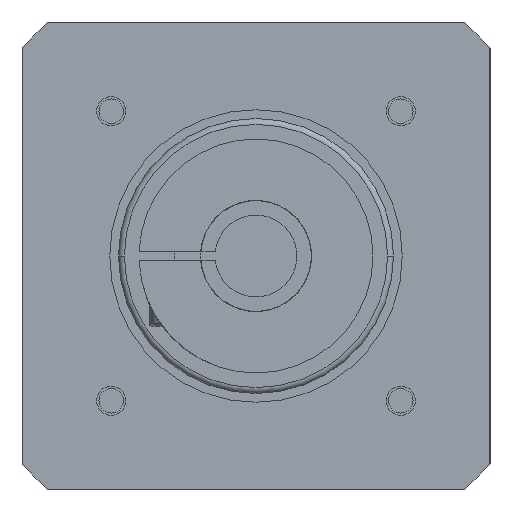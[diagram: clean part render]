
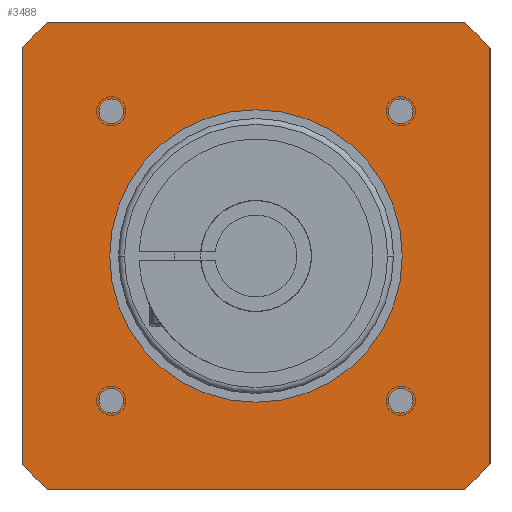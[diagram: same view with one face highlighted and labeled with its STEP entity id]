
A CAD part, left-side view. The second image highlights one B-rep face of the part: STEP entity #3488.
In plain terms, the highlighted planar face has unit normal (-1, 0, 0).
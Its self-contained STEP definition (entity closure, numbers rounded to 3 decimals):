
#735=CARTESIAN_POINT('',(0.,0.,0.));
#736=DIRECTION('',(-1.,0.,0.));
#737=DIRECTION('',(0.,-0.748,0.664));
#738=AXIS2_PLACEMENT_3D('',#735,#736,#737);
#740=DIRECTION('',(0.,0.,1.));
#741=VECTOR('',#740,71.056);
#742=CARTESIAN_POINT('',(0.,-40.,-35.528));
#743=LINE('',#742,#741);
#744=CARTESIAN_POINT('',(0.,0.,0.));
#745=DIRECTION('',(-1.,0.,0.));
#746=DIRECTION('',(0.,-0.664,-0.748));
#747=AXIS2_PLACEMENT_3D('',#744,#745,#746);
#749=DIRECTION('',(0.,-1.,0.));
#750=VECTOR('',#749,71.056);
#751=CARTESIAN_POINT('',(0.,35.528,-40.));
#752=LINE('',#751,#750);
#753=CARTESIAN_POINT('',(0.,0.,0.));
#754=DIRECTION('',(-1.,0.,0.));
#755=DIRECTION('',(0.,0.748,-0.664));
#756=AXIS2_PLACEMENT_3D('',#753,#754,#755);
#758=DIRECTION('',(0.,0.,-1.));
#759=VECTOR('',#758,71.056);
#760=CARTESIAN_POINT('',(0.,40.,35.528));
#761=LINE('',#760,#759);
#762=CARTESIAN_POINT('',(0.,0.,0.));
#763=DIRECTION('',(-1.,0.,0.));
#764=DIRECTION('',(0.,0.664,0.748));
#765=AXIS2_PLACEMENT_3D('',#762,#763,#764);
#767=DIRECTION('',(0.,1.,0.));
#768=VECTOR('',#767,71.056);
#769=CARTESIAN_POINT('',(0.,-35.528,40.));
#770=LINE('',#769,#768);
#771=CARTESIAN_POINT('',(0.,0.,0.));
#772=DIRECTION('',(1.,0.,0.));
#773=DIRECTION('',(0.,-1.,0.));
#774=AXIS2_PLACEMENT_3D('',#771,#772,#773);
#776=CARTESIAN_POINT('',(0.,0.,0.));
#777=DIRECTION('',(1.,0.,0.));
#778=DIRECTION('',(0.,1.,0.));
#779=AXIS2_PLACEMENT_3D('',#776,#777,#778);
#781=CARTESIAN_POINT('',(0.,-24.749,24.749));
#782=DIRECTION('',(-1.,0.,0.));
#783=DIRECTION('',(0.,0.,-1.));
#784=AXIS2_PLACEMENT_3D('',#781,#782,#783);
#786=CARTESIAN_POINT('',(0.,-24.749,24.749));
#787=DIRECTION('',(-1.,0.,0.));
#788=DIRECTION('',(0.,0.,1.));
#789=AXIS2_PLACEMENT_3D('',#786,#787,#788);
#791=CARTESIAN_POINT('',(0.,-24.749,-24.749));
#792=DIRECTION('',(-1.,0.,0.));
#793=DIRECTION('',(0.,0.,-1.));
#794=AXIS2_PLACEMENT_3D('',#791,#792,#793);
#796=CARTESIAN_POINT('',(0.,-24.749,-24.749));
#797=DIRECTION('',(-1.,0.,0.));
#798=DIRECTION('',(0.,0.,1.));
#799=AXIS2_PLACEMENT_3D('',#796,#797,#798);
#801=CARTESIAN_POINT('',(0.,24.749,-24.749));
#802=DIRECTION('',(-1.,0.,0.));
#803=DIRECTION('',(0.,0.,-1.));
#804=AXIS2_PLACEMENT_3D('',#801,#802,#803);
#806=CARTESIAN_POINT('',(0.,24.749,-24.749));
#807=DIRECTION('',(-1.,0.,0.));
#808=DIRECTION('',(0.,0.,1.));
#809=AXIS2_PLACEMENT_3D('',#806,#807,#808);
#811=CARTESIAN_POINT('',(0.,24.749,24.749));
#812=DIRECTION('',(-1.,0.,0.));
#813=DIRECTION('',(0.,0.,-1.));
#814=AXIS2_PLACEMENT_3D('',#811,#812,#813);
#816=CARTESIAN_POINT('',(0.,24.749,24.749));
#817=DIRECTION('',(-1.,0.,0.));
#818=DIRECTION('',(0.,0.,1.));
#819=AXIS2_PLACEMENT_3D('',#816,#817,#818);
#2107=CARTESIAN_POINT('',(0.,-40.,35.528));
#2108=CARTESIAN_POINT('',(0.,-35.528,40.));
#2109=VERTEX_POINT('',#2107);
#2110=VERTEX_POINT('',#2108);
#2111=CARTESIAN_POINT('',(0.,35.528,40.));
#2112=VERTEX_POINT('',#2111);
#2113=CARTESIAN_POINT('',(0.,40.,35.528));
#2114=VERTEX_POINT('',#2113);
#2115=CARTESIAN_POINT('',(0.,40.,-35.528));
#2116=VERTEX_POINT('',#2115);
#2117=CARTESIAN_POINT('',(0.,35.528,-40.));
#2118=VERTEX_POINT('',#2117);
#2119=CARTESIAN_POINT('',(0.,-35.528,-40.));
#2120=VERTEX_POINT('',#2119);
#2121=CARTESIAN_POINT('',(0.,-40.,-35.528));
#2122=VERTEX_POINT('',#2121);
#2139=CARTESIAN_POINT('',(0.,-25.,0.));
#2140=CARTESIAN_POINT('',(0.,25.,0.));
#2141=VERTEX_POINT('',#2139);
#2142=VERTEX_POINT('',#2140);
#2159=CARTESIAN_POINT('',(0.,-24.749,22.649));
#2160=CARTESIAN_POINT('',(0.,-24.749,26.849));
#2161=VERTEX_POINT('',#2159);
#2162=VERTEX_POINT('',#2160);
#2163=CARTESIAN_POINT('',(0.,-24.749,-26.849));
#2164=CARTESIAN_POINT('',(0.,-24.749,-22.649));
#2165=VERTEX_POINT('',#2163);
#2166=VERTEX_POINT('',#2164);
#2167=CARTESIAN_POINT('',(0.,24.749,-26.849));
#2168=CARTESIAN_POINT('',(0.,24.749,-22.649));
#2169=VERTEX_POINT('',#2167);
#2170=VERTEX_POINT('',#2168);
#2171=CARTESIAN_POINT('',(0.,24.749,22.649));
#2172=CARTESIAN_POINT('',(0.,24.749,26.849));
#2173=VERTEX_POINT('',#2171);
#2174=VERTEX_POINT('',#2172);
#3443=CARTESIAN_POINT('',(0.,0.,0.));
#3444=DIRECTION('',(-1.,0.,0.));
#3445=DIRECTION('',(0.,0.,-1.));
#3446=AXIS2_PLACEMENT_3D('',#3443,#3444,#3445);
#3447=PLANE('',#3446);
#3448=ORIENTED_EDGE('',*,*,#3333,.F.);
#3449=ORIENTED_EDGE('',*,*,#3348,.F.);
#3450=ORIENTED_EDGE('',*,*,#3362,.F.);
#3451=ORIENTED_EDGE('',*,*,#3376,.F.);
#3452=ORIENTED_EDGE('',*,*,#3396,.F.);
#3453=ORIENTED_EDGE('',*,*,#3410,.F.);
#3454=ORIENTED_EDGE('',*,*,#3424,.F.);
#3455=ORIENTED_EDGE('',*,*,#3437,.F.);
#3456=EDGE_LOOP('',(#3448,#3449,#3450,#3451,#3452,#3453,#3454,#3455));
#3457=FACE_OUTER_BOUND('',#3456,.F.);
#3459=ORIENTED_EDGE('',*,*,#3458,.F.);
#3461=ORIENTED_EDGE('',*,*,#3460,.F.);
#3462=EDGE_LOOP('',(#3459,#3461));
#3463=FACE_BOUND('',#3462,.F.);
#3465=ORIENTED_EDGE('',*,*,#3464,.T.);
#3467=ORIENTED_EDGE('',*,*,#3466,.T.);
#3468=EDGE_LOOP('',(#3465,#3467));
#3469=FACE_BOUND('',#3468,.F.);
#3471=ORIENTED_EDGE('',*,*,#3470,.T.);
#3473=ORIENTED_EDGE('',*,*,#3472,.T.);
#3474=EDGE_LOOP('',(#3471,#3473));
#3475=FACE_BOUND('',#3474,.F.);
#3477=ORIENTED_EDGE('',*,*,#3476,.T.);
#3479=ORIENTED_EDGE('',*,*,#3478,.T.);
#3480=EDGE_LOOP('',(#3477,#3479));
#3481=FACE_BOUND('',#3480,.F.);
#3483=ORIENTED_EDGE('',*,*,#3482,.T.);
#3485=ORIENTED_EDGE('',*,*,#3484,.T.);
#3486=EDGE_LOOP('',(#3483,#3485));
#3487=FACE_BOUND('',#3486,.F.);
#739=CIRCLE('',#738,53.5);
#748=CIRCLE('',#747,53.5);
#757=CIRCLE('',#756,53.5);
#766=CIRCLE('',#765,53.5);
#775=CIRCLE('',#774,25.);
#780=CIRCLE('',#779,25.);
#785=CIRCLE('',#784,2.1);
#790=CIRCLE('',#789,2.1);
#795=CIRCLE('',#794,2.1);
#800=CIRCLE('',#799,2.1);
#805=CIRCLE('',#804,2.1);
#810=CIRCLE('',#809,2.1);
#815=CIRCLE('',#814,2.1);
#820=CIRCLE('',#819,2.1);
#3333=EDGE_CURVE('',#2109,#2110,#739,.T.);
#3348=EDGE_CURVE('',#2122,#2109,#743,.T.);
#3362=EDGE_CURVE('',#2120,#2122,#748,.T.);
#3376=EDGE_CURVE('',#2118,#2120,#752,.T.);
#3396=EDGE_CURVE('',#2116,#2118,#757,.T.);
#3410=EDGE_CURVE('',#2114,#2116,#761,.T.);
#3424=EDGE_CURVE('',#2112,#2114,#766,.T.);
#3437=EDGE_CURVE('',#2110,#2112,#770,.T.);
#3458=EDGE_CURVE('',#2141,#2142,#775,.T.);
#3460=EDGE_CURVE('',#2142,#2141,#780,.T.);
#3464=EDGE_CURVE('',#2161,#2162,#785,.T.);
#3466=EDGE_CURVE('',#2162,#2161,#790,.T.);
#3470=EDGE_CURVE('',#2165,#2166,#795,.T.);
#3472=EDGE_CURVE('',#2166,#2165,#800,.T.);
#3476=EDGE_CURVE('',#2169,#2170,#805,.T.);
#3478=EDGE_CURVE('',#2170,#2169,#810,.T.);
#3482=EDGE_CURVE('',#2173,#2174,#815,.T.);
#3484=EDGE_CURVE('',#2174,#2173,#820,.T.);
#3488=ADVANCED_FACE('',(#3457,#3463,#3469,#3475,#3481,#3487),#3447,.T.);
